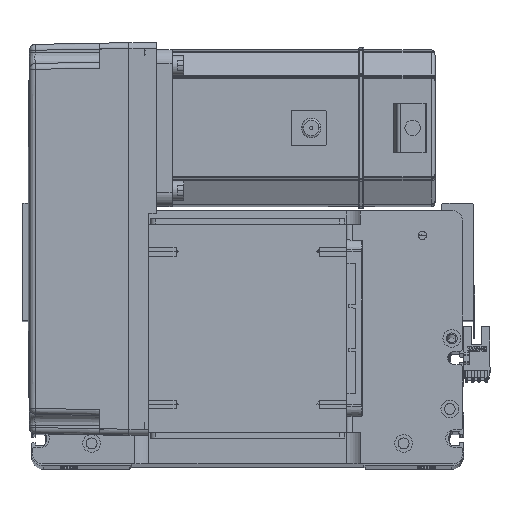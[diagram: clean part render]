
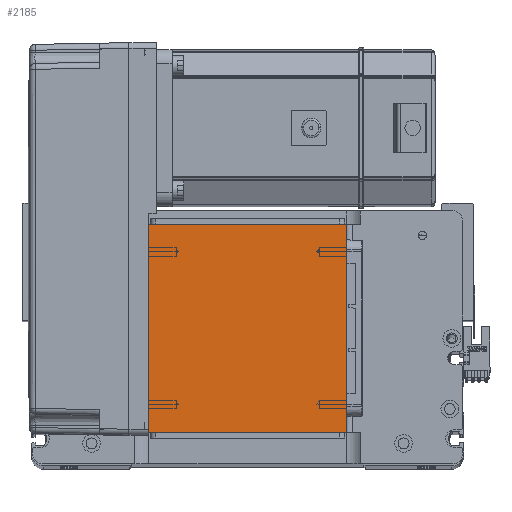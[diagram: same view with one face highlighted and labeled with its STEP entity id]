
A CAD part, top view. The second image highlights one B-rep face of the part: STEP entity #2185.
In plain terms, the highlighted planar face has unit normal (0, 0, 1).
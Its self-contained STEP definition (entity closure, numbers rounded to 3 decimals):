
#601 = VECTOR ( 'NONE', #1915, 1000. ) ;
#1059 = EDGE_CURVE ( 'NONE', #23055, #51947, #43382, .T. ) ;
#1415 = CARTESIAN_POINT ( 'NONE',  ( -50.5, 122., 115. ) ) ;
#1833 = CARTESIAN_POINT ( 'NONE',  ( -50.5, 122., 115. ) ) ;
#1915 = DIRECTION ( 'NONE',  ( -1., 0., 0. ) ) ;
#2185 = ADVANCED_FACE ( 'NONE', ( #2876 ), #11335, .T. ) ;
#2876 = FACE_OUTER_BOUND ( 'NONE', #8695, .T. ) ;
#3640 = LINE ( 'NONE', #29929, #45817 ) ;
#5224 = CARTESIAN_POINT ( 'NONE',  ( -50.5, 16., 115. ) ) ;
#5342 = EDGE_CURVE ( 'NONE', #51947, #35092, #36611, .T. ) ;
#5804 = DIRECTION ( 'NONE',  ( 0., 1., 0. ) ) ;
#8252 = ORIENTED_EDGE ( 'NONE', *, *, #25385, .T. ) ;
#8695 = EDGE_LOOP ( 'NONE', ( #19946, #34173, #8252, #17634 ) ) ;
#11335 = PLANE ( 'NONE',  #48737 ) ;
#12682 = VECTOR ( 'NONE', #20201, 1000. ) ;
#17634 = ORIENTED_EDGE ( 'NONE', *, *, #1059, .T. ) ;
#18929 = CARTESIAN_POINT ( 'NONE',  ( 0., 0., 115. ) ) ;
#19946 = ORIENTED_EDGE ( 'NONE', *, *, #5342, .T. ) ;
#20201 = DIRECTION ( 'NONE',  ( 0., -1., 0. ) ) ;
#20689 = LINE ( 'NONE', #39547, #44584 ) ;
#23055 = VERTEX_POINT ( 'NONE', #49117 ) ;
#24100 = CARTESIAN_POINT ( 'NONE',  ( -50.5, 122., 115. ) ) ;
#25385 = EDGE_CURVE ( 'NONE', #26188, #23055, #3640, .T. ) ;
#26188 = VERTEX_POINT ( 'NONE', #45954 ) ;
#26853 = DIRECTION ( 'NONE',  ( 1., 0., 0. ) ) ;
#29929 = CARTESIAN_POINT ( 'NONE',  ( 50.5, 122., 115. ) ) ;
#31839 = DIRECTION ( 'NONE',  ( 1., 0., 0. ) ) ;
#34173 = ORIENTED_EDGE ( 'NONE', *, *, #47843, .T. ) ;
#35092 = VERTEX_POINT ( 'NONE', #5224 ) ;
#36611 = LINE ( 'NONE', #24100, #12682 ) ;
#39133 = DIRECTION ( 'NONE',  ( 0., 0., 1. ) ) ;
#39547 = CARTESIAN_POINT ( 'NONE',  ( -50.5, 16., 115. ) ) ;
#43382 = LINE ( 'NONE', #1415, #601 ) ;
#44584 = VECTOR ( 'NONE', #31839, 1000. ) ;
#45817 = VECTOR ( 'NONE', #5804, 1000. ) ;
#45954 = CARTESIAN_POINT ( 'NONE',  ( 50.5, 16., 115. ) ) ;
#47843 = EDGE_CURVE ( 'NONE', #35092, #26188, #20689, .T. ) ;
#48737 = AXIS2_PLACEMENT_3D ( 'NONE', #18929, #39133, #26853 ) ;
#49117 = CARTESIAN_POINT ( 'NONE',  ( 50.5, 122., 115. ) ) ;
#51947 = VERTEX_POINT ( 'NONE', #1833 ) ;
